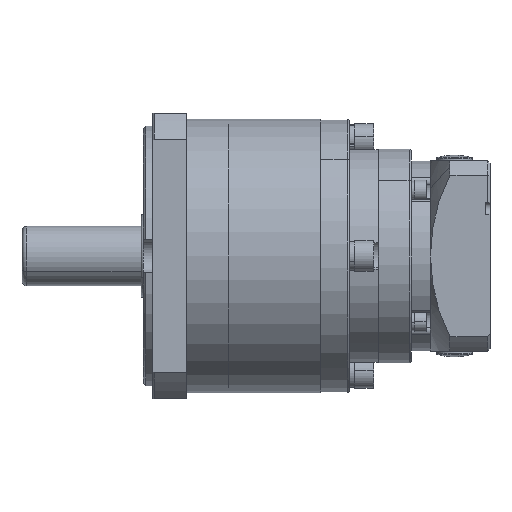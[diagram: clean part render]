
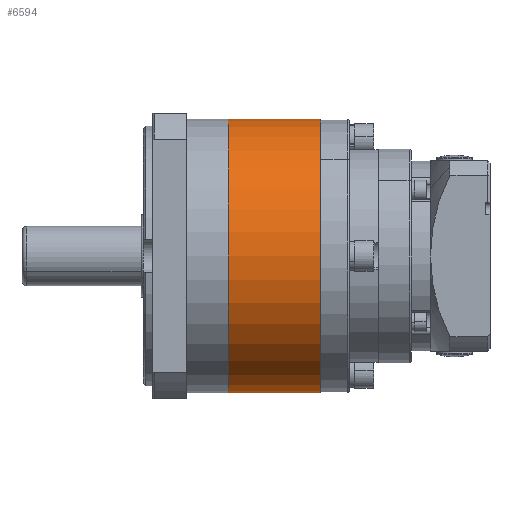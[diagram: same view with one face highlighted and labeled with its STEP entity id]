
A CAD part, front view. The second image highlights one B-rep face of the part: STEP entity #6594.
In plain terms, the highlighted cylindrical face has radius 57.5 mm (diameter 115 mm), a partial arc.
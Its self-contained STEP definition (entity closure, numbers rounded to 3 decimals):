
#561 = VERTEX_POINT ( 'NONE', #8695 ) ;
#2280 = CARTESIAN_POINT ( 'NONE',  ( 35.5, 0., -57.5 ) ) ;
#3579 = DIRECTION ( 'NONE',  ( -1., 0., 0. ) ) ;
#3672 = DIRECTION ( 'NONE',  ( 1., 0., 0. ) ) ;
#4168 = VECTOR ( 'NONE', #19661, 1000. ) ;
#5357 = VECTOR ( 'NONE', #3672, 1000. ) ;
#5565 = VERTEX_POINT ( 'NONE', #26514 ) ;
#6594 = ADVANCED_FACE ( 'NONE', ( #17446 ), #14176, .T. ) ;
#6932 = LINE ( 'NONE', #2280, #4168 ) ;
#7720 = AXIS2_PLACEMENT_3D ( 'NONE', #16608, #3579, #17525 ) ;
#8661 = ORIENTED_EDGE ( 'NONE', *, *, #42559, .T. ) ;
#8695 = CARTESIAN_POINT ( 'NONE',  ( 74.5, 0., 57.5 ) ) ;
#10264 = CARTESIAN_POINT ( 'NONE',  ( 35.5, 0., -57.5 ) ) ;
#11906 = DIRECTION ( 'NONE',  ( -1., 0., 0. ) ) ;
#12003 = VERTEX_POINT ( 'NONE', #10264 ) ;
#13506 = DIRECTION ( 'NONE',  ( 0., 0., -1. ) ) ;
#14176 = CYLINDRICAL_SURFACE ( 'NONE', #31336, 57.5 ) ;
#14412 = EDGE_CURVE ( 'NONE', #12003, #15595, #6932, .T. ) ;
#15595 = VERTEX_POINT ( 'NONE', #30416 ) ;
#15900 = CIRCLE ( 'NONE', #7720, 57.5 ) ;
#15974 = ORIENTED_EDGE ( 'NONE', *, *, #17768, .F. ) ;
#16435 = ORIENTED_EDGE ( 'NONE', *, *, #28792, .F. ) ;
#16608 = CARTESIAN_POINT ( 'NONE',  ( 35.5, 0., 0. ) ) ;
#17446 = FACE_OUTER_BOUND ( 'NONE', #24016, .T. ) ;
#17525 = DIRECTION ( 'NONE',  ( 0., 0., 1. ) ) ;
#17768 = EDGE_CURVE ( 'NONE', #12003, #5565, #15900, .T. ) ;
#19661 = DIRECTION ( 'NONE',  ( 1., 0., 0. ) ) ;
#20018 = CARTESIAN_POINT ( 'NONE',  ( 35.5, 0., 0. ) ) ;
#23734 = LINE ( 'NONE', #24231, #5357 ) ;
#24016 = EDGE_LOOP ( 'NONE', ( #16435, #15974, #39935, #8661 ) ) ;
#24231 = CARTESIAN_POINT ( 'NONE',  ( 35.5, 0., 57.5 ) ) ;
#25363 = CARTESIAN_POINT ( 'NONE',  ( 74.5, 0., 0. ) ) ;
#26514 = CARTESIAN_POINT ( 'NONE',  ( 35.5, 0., 57.5 ) ) ;
#28792 = EDGE_CURVE ( 'NONE', #5565, #561, #23734, .T. ) ;
#28838 = DIRECTION ( 'NONE',  ( 0., 0., 1. ) ) ;
#30416 = CARTESIAN_POINT ( 'NONE',  ( 74.5, 0., -57.5 ) ) ;
#31336 = AXIS2_PLACEMENT_3D ( 'NONE', #20018, #37238, #13506 ) ;
#32704 = AXIS2_PLACEMENT_3D ( 'NONE', #25363, #11906, #28838 ) ;
#37238 = DIRECTION ( 'NONE',  ( 1., 0., 0. ) ) ;
#39632 = CIRCLE ( 'NONE', #32704, 57.5 ) ;
#39935 = ORIENTED_EDGE ( 'NONE', *, *, #14412, .T. ) ;
#42559 = EDGE_CURVE ( 'NONE', #15595, #561, #39632, .T. ) ;
